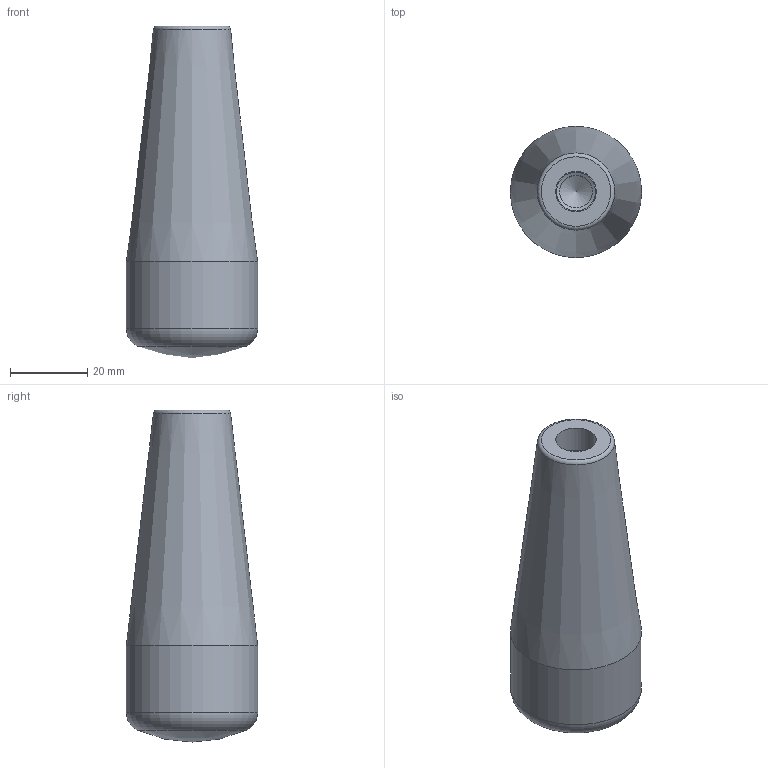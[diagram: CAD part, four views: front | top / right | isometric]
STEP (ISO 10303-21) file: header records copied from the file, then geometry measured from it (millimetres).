
FILE_DESCRIPTION (( 'STEP AP214' ), '1' );
FILE_NAME ('219-34-M10-86.step', '2019-04-26T09:56:12', ( 'user' ), ( '' ), 'SwSTEP 2.0', 'SolidWorks 2019', '' );
FILE_SCHEMA (( 'AUTOMOTIVE_DESIGN' ));
Length unit declared in the file: millimetre
Products named in the file (1): 219-34-M10-86
Bounding box: 34 x 34 x 86 mm (x, y, z)
Volume: 52811.5 mm3; surface area: 9967.2 mm2
Topology: 1 solids, 1 shells, 11 faces, 19 edges, 11 vertices
Faces by surface type: cylinder 3, cone 3, plane 2, torus 2, sphere 1
Full cylindrical faces by diameter (mm): 8.5 x1, 10.5 x1, 34 x1
Entity records: 259 total; most frequent: DIRECTION 44, CARTESIAN_POINT 32, AXIS2_PLACEMENT_3D 22, EDGE_LOOP 20, ORIENTED_EDGE 20, FACE_OUTER_BOUND 16, ADVANCED_FACE 11, EDGE_CURVE 10
